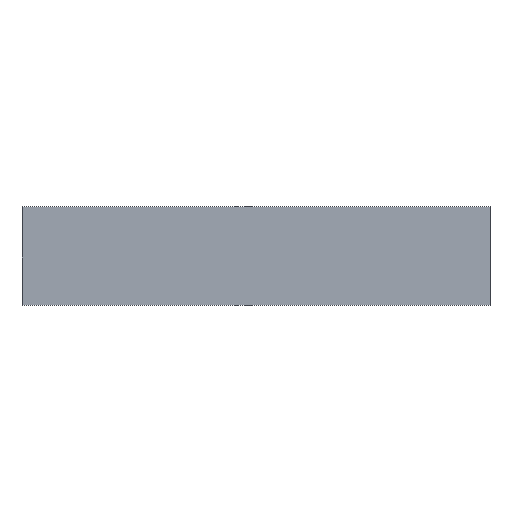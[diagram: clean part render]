
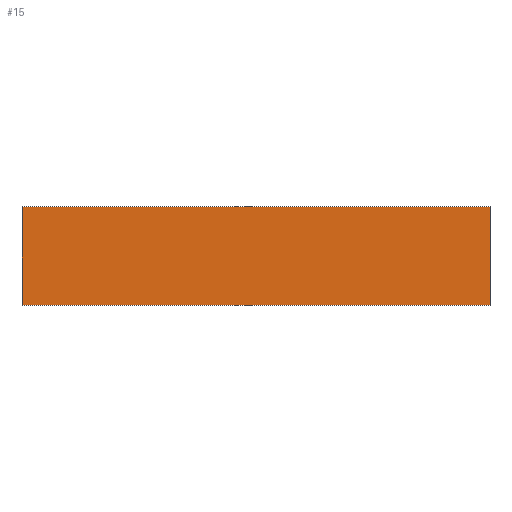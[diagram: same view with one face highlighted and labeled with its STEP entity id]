
A CAD part, top view. The second image highlights one B-rep face of the part: STEP entity #15.
In plain terms, the highlighted planar face has unit normal (0, 0, 1).
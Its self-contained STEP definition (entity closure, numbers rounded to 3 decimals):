
#12 = CARTESIAN_POINT ( 'NONE',  ( 952.5, 200., 25. ) ) ;
#15 = ADVANCED_FACE ( 'NONE', ( #54 ), #99, .T. ) ;
#16 = VERTEX_POINT ( 'NONE', #12 ) ;
#27 = ORIENTED_EDGE ( 'NONE', *, *, #170, .T. ) ;
#30 = VERTEX_POINT ( 'NONE', #87 ) ;
#32 = VECTOR ( 'NONE', #93, 1000. ) ;
#39 = LINE ( 'NONE', #92, #131 ) ;
#53 = AXIS2_PLACEMENT_3D ( 'NONE', #98, #164, #83 ) ;
#54 = FACE_OUTER_BOUND ( 'NONE', #175, .T. ) ;
#55 = ORIENTED_EDGE ( 'NONE', *, *, #108, .T. ) ;
#77 = CARTESIAN_POINT ( 'NONE',  ( -952.5, -200., 25. ) ) ;
#83 = DIRECTION ( 'NONE',  ( 1., 0., 0. ) ) ;
#87 = CARTESIAN_POINT ( 'NONE',  ( 952.5, -200., 25. ) ) ;
#92 = CARTESIAN_POINT ( 'NONE',  ( -952.5, 200., 25. ) ) ;
#93 = DIRECTION ( 'NONE',  ( 1., 0., 0. ) ) ;
#97 = ORIENTED_EDGE ( 'NONE', *, *, #154, .T. ) ;
#98 = CARTESIAN_POINT ( 'NONE',  ( 0., 0., 25. ) ) ;
#99 = PLANE ( 'NONE',  #53 ) ;
#108 = EDGE_CURVE ( 'NONE', #16, #148, #172, .T. ) ;
#122 = LINE ( 'NONE', #142, #202 ) ;
#123 = DIRECTION ( 'NONE',  ( 0., -1., 0. ) ) ;
#131 = VECTOR ( 'NONE', #123, 1000. ) ;
#133 = VERTEX_POINT ( 'NONE', #153 ) ;
#142 = CARTESIAN_POINT ( 'NONE',  ( 952.5, 200., 25. ) ) ;
#145 = CARTESIAN_POINT ( 'NONE',  ( -952.5, 200., 25. ) ) ;
#148 = VERTEX_POINT ( 'NONE', #145 ) ;
#151 = VECTOR ( 'NONE', #155, 1000. ) ;
#153 = CARTESIAN_POINT ( 'NONE',  ( -952.5, -200., 25. ) ) ;
#154 = EDGE_CURVE ( 'NONE', #133, #30, #201, .T. ) ;
#155 = DIRECTION ( 'NONE',  ( -1., 0., 0. ) ) ;
#164 = DIRECTION ( 'NONE',  ( 0., 0., 1. ) ) ;
#170 = EDGE_CURVE ( 'NONE', #148, #133, #39, .T. ) ;
#172 = LINE ( 'NONE', #180, #151 ) ;
#175 = EDGE_LOOP ( 'NONE', ( #27, #97, #191, #55 ) ) ;
#180 = CARTESIAN_POINT ( 'NONE',  ( -952.5, 200., 25. ) ) ;
#181 = EDGE_CURVE ( 'NONE', #30, #16, #122, .T. ) ;
#188 = DIRECTION ( 'NONE',  ( 0., 1., 0. ) ) ;
#191 = ORIENTED_EDGE ( 'NONE', *, *, #181, .T. ) ;
#201 = LINE ( 'NONE', #77, #32 ) ;
#202 = VECTOR ( 'NONE', #188, 1000. ) ;
